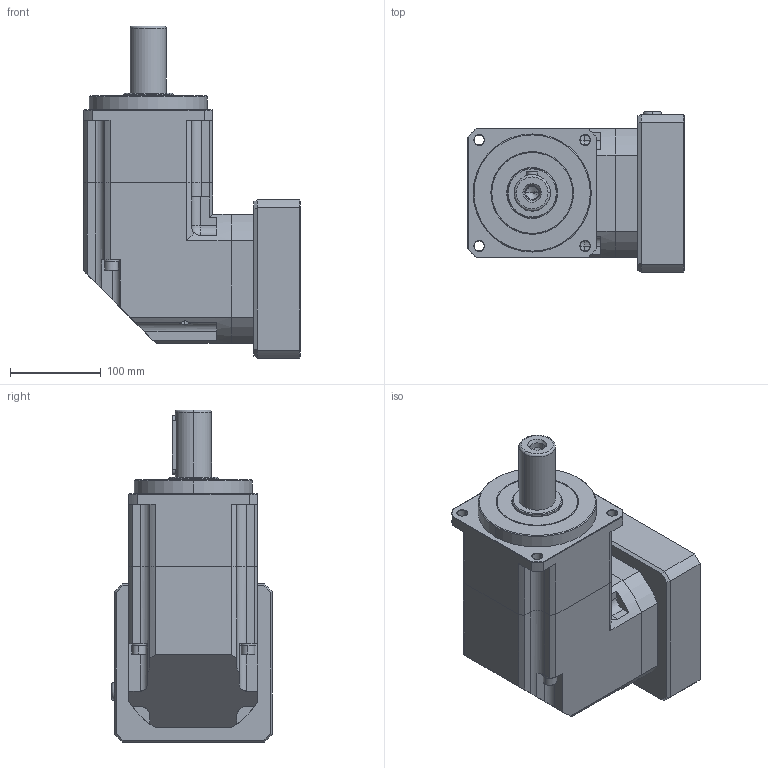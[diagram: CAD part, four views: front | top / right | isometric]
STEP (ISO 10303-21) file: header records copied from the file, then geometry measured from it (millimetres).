
FILE_DESCRIPTION (( 'STEP AP203' ), '1' );
FILE_NAME ('LBR142-(L1)-S2-P2-114200M12.STEP', '2024-11-15T00:32:18', ( '微软用户' ), ( '微软中国' ), 'SwSTEP 2.0', 'SolidWorks 2022', '' );
FILE_SCHEMA (( 'CONFIG_CONTROL_DESIGN' ));
Length unit declared in the file: millimetre
Products named in the file (1): LBR142-(L1)-S2-P2-114200M12
Bounding box: 238.5 x 177 x 365.5 mm (x, y, z)
Volume: 6614246.9 mm3; surface area: 401726.4 mm2
Topology: 7 solids, 7 shells, 358 faces, 862 edges, 529 vertices
Faces by surface type: plane 164, cylinder 114, cone 59, torus 21
Entity records: 10641 total; most frequent: CARTESIAN_POINT 2179, DIRECTION 1810, ORIENTED_EDGE 1704, EDGE_CURVE 852, AXIS2_PLACEMENT_3D 664, VERTEX_POINT 529, LINE 482, VECTOR 482
